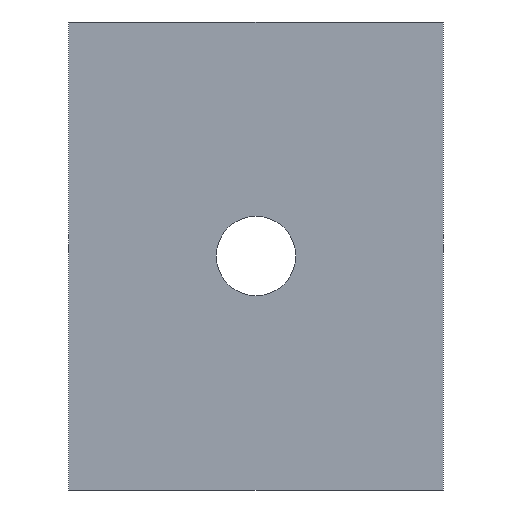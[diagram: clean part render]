
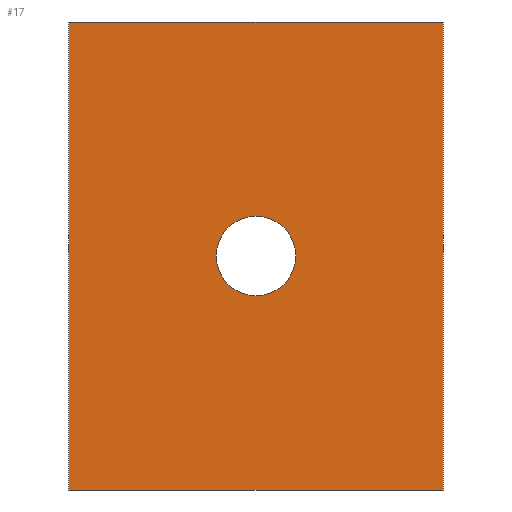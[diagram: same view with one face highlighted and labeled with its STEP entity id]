
A CAD part, left-side view. The second image highlights one B-rep face of the part: STEP entity #17.
In plain terms, the highlighted planar face has unit normal (-1, 0, 0).
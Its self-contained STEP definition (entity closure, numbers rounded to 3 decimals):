
#17 = ADVANCED_FACE('',(#18,#137),#32,.F.);
#18 = FACE_BOUND('',#19,.F.);
#19 = EDGE_LOOP('',(#20,#55,#83,#111));
#20 = ORIENTED_EDGE('',*,*,#21,.F.);
#21 = EDGE_CURVE('',#22,#24,#26,.T.);
#22 = VERTEX_POINT('',#23);
#23 = CARTESIAN_POINT('',(-85.,-8.,30.));
#24 = VERTEX_POINT('',#25);
#25 = CARTESIAN_POINT('',(-85.,-8.,50.));
#26 = SURFACE_CURVE('',#27,(#31,#43),.PCURVE_S1.);
#27 = LINE('',#28,#29);
#28 = CARTESIAN_POINT('',(-85.,-8.,30.));
#29 = VECTOR('',#30,1.);
#30 = DIRECTION('',(0.,0.,1.));
#31 = PCURVE('',#32,#37);
#32 = PLANE('',#33);
#33 = AXIS2_PLACEMENT_3D('',#34,#35,#36);
#34 = CARTESIAN_POINT('',(-85.,-8.,30.));
#35 = DIRECTION('',(1.,0.,0.));
#36 = DIRECTION('',(0.,0.,1.));
#37 = DEFINITIONAL_REPRESENTATION('',(#38),#42);
#38 = LINE('',#39,#40);
#39 = CARTESIAN_POINT('',(0.,0.));
#40 = VECTOR('',#41,1.);
#41 = DIRECTION('',(1.,0.));
#42 = ( GEOMETRIC_REPRESENTATION_CONTEXT(2) 
PARAMETRIC_REPRESENTATION_CONTEXT() REPRESENTATION_CONTEXT('2D SPACE',''
  ) );
#43 = PCURVE('',#44,#49);
#44 = PLANE('',#45);
#45 = AXIS2_PLACEMENT_3D('',#46,#47,#48);
#46 = CARTESIAN_POINT('',(-85.,-8.,30.));
#47 = DIRECTION('',(0.,1.,0.));
#48 = DIRECTION('',(0.,0.,1.));
#49 = DEFINITIONAL_REPRESENTATION('',(#50),#54);
#50 = LINE('',#51,#52);
#51 = CARTESIAN_POINT('',(0.,0.));
#52 = VECTOR('',#53,1.);
#53 = DIRECTION('',(1.,0.));
#54 = ( GEOMETRIC_REPRESENTATION_CONTEXT(2) 
PARAMETRIC_REPRESENTATION_CONTEXT() REPRESENTATION_CONTEXT('2D SPACE',''
  ) );
#55 = ORIENTED_EDGE('',*,*,#56,.T.);
#56 = EDGE_CURVE('',#22,#57,#59,.T.);
#57 = VERTEX_POINT('',#58);
#58 = CARTESIAN_POINT('',(-85.,8.,30.));
#59 = SURFACE_CURVE('',#60,(#64,#71),.PCURVE_S1.);
#60 = LINE('',#61,#62);
#61 = CARTESIAN_POINT('',(-85.,-8.,30.));
#62 = VECTOR('',#63,1.);
#63 = DIRECTION('',(0.,1.,0.));
#64 = PCURVE('',#32,#65);
#65 = DEFINITIONAL_REPRESENTATION('',(#66),#70);
#66 = LINE('',#67,#68);
#67 = CARTESIAN_POINT('',(0.,0.));
#68 = VECTOR('',#69,1.);
#69 = DIRECTION('',(0.,-1.));
#70 = ( GEOMETRIC_REPRESENTATION_CONTEXT(2) 
PARAMETRIC_REPRESENTATION_CONTEXT() REPRESENTATION_CONTEXT('2D SPACE',''
  ) );
#71 = PCURVE('',#72,#77);
#72 = PLANE('',#73);
#73 = AXIS2_PLACEMENT_3D('',#74,#75,#76);
#74 = CARTESIAN_POINT('',(-85.,-8.,30.));
#75 = DIRECTION('',(0.,0.,1.));
#76 = DIRECTION('',(1.,0.,0.));
#77 = DEFINITIONAL_REPRESENTATION('',(#78),#82);
#78 = LINE('',#79,#80);
#79 = CARTESIAN_POINT('',(0.,0.));
#80 = VECTOR('',#81,1.);
#81 = DIRECTION('',(0.,1.));
#82 = ( GEOMETRIC_REPRESENTATION_CONTEXT(2) 
PARAMETRIC_REPRESENTATION_CONTEXT() REPRESENTATION_CONTEXT('2D SPACE',''
  ) );
#83 = ORIENTED_EDGE('',*,*,#84,.T.);
#84 = EDGE_CURVE('',#57,#85,#87,.T.);
#85 = VERTEX_POINT('',#86);
#86 = CARTESIAN_POINT('',(-85.,8.,50.));
#87 = SURFACE_CURVE('',#88,(#92,#99),.PCURVE_S1.);
#88 = LINE('',#89,#90);
#89 = CARTESIAN_POINT('',(-85.,8.,30.));
#90 = VECTOR('',#91,1.);
#91 = DIRECTION('',(0.,0.,1.));
#92 = PCURVE('',#32,#93);
#93 = DEFINITIONAL_REPRESENTATION('',(#94),#98);
#94 = LINE('',#95,#96);
#95 = CARTESIAN_POINT('',(0.,-16.));
#96 = VECTOR('',#97,1.);
#97 = DIRECTION('',(1.,0.));
#98 = ( GEOMETRIC_REPRESENTATION_CONTEXT(2) 
PARAMETRIC_REPRESENTATION_CONTEXT() REPRESENTATION_CONTEXT('2D SPACE',''
  ) );
#99 = PCURVE('',#100,#105);
#100 = PLANE('',#101);
#101 = AXIS2_PLACEMENT_3D('',#102,#103,#104);
#102 = CARTESIAN_POINT('',(-85.,8.,30.));
#103 = DIRECTION('',(0.,1.,0.));
#104 = DIRECTION('',(0.,0.,1.));
#105 = DEFINITIONAL_REPRESENTATION('',(#106),#110);
#106 = LINE('',#107,#108);
#107 = CARTESIAN_POINT('',(0.,0.));
#108 = VECTOR('',#109,1.);
#109 = DIRECTION('',(1.,0.));
#110 = ( GEOMETRIC_REPRESENTATION_CONTEXT(2) 
PARAMETRIC_REPRESENTATION_CONTEXT() REPRESENTATION_CONTEXT('2D SPACE',''
  ) );
#111 = ORIENTED_EDGE('',*,*,#112,.F.);
#112 = EDGE_CURVE('',#24,#85,#113,.T.);
#113 = SURFACE_CURVE('',#114,(#118,#125),.PCURVE_S1.);
#114 = LINE('',#115,#116);
#115 = CARTESIAN_POINT('',(-85.,-8.,50.));
#116 = VECTOR('',#117,1.);
#117 = DIRECTION('',(0.,1.,0.));
#118 = PCURVE('',#32,#119);
#119 = DEFINITIONAL_REPRESENTATION('',(#120),#124);
#120 = LINE('',#121,#122);
#121 = CARTESIAN_POINT('',(20.,0.));
#122 = VECTOR('',#123,1.);
#123 = DIRECTION('',(0.,-1.));
#124 = ( GEOMETRIC_REPRESENTATION_CONTEXT(2) 
PARAMETRIC_REPRESENTATION_CONTEXT() REPRESENTATION_CONTEXT('2D SPACE',''
  ) );
#125 = PCURVE('',#126,#131);
#126 = PLANE('',#127);
#127 = AXIS2_PLACEMENT_3D('',#128,#129,#130);
#128 = CARTESIAN_POINT('',(-85.,-8.,50.));
#129 = DIRECTION('',(0.,0.,1.));
#130 = DIRECTION('',(1.,0.,0.));
#131 = DEFINITIONAL_REPRESENTATION('',(#132),#136);
#132 = LINE('',#133,#134);
#133 = CARTESIAN_POINT('',(0.,0.));
#134 = VECTOR('',#135,1.);
#135 = DIRECTION('',(0.,1.));
#136 = ( GEOMETRIC_REPRESENTATION_CONTEXT(2) 
PARAMETRIC_REPRESENTATION_CONTEXT() REPRESENTATION_CONTEXT('2D SPACE',''
  ) );
#137 = FACE_BOUND('',#138,.F.);
#138 = EDGE_LOOP('',(#139));
#139 = ORIENTED_EDGE('',*,*,#140,.F.);
#140 = EDGE_CURVE('',#141,#141,#143,.T.);
#141 = VERTEX_POINT('',#142);
#142 = CARTESIAN_POINT('',(-85.,0.,41.7));
#143 = SURFACE_CURVE('',#144,(#149,#156),.PCURVE_S1.);
#144 = CIRCLE('',#145,1.7);
#145 = AXIS2_PLACEMENT_3D('',#146,#147,#148);
#146 = CARTESIAN_POINT('',(-85.,0.,40.));
#147 = DIRECTION('',(1.,0.,0.));
#148 = DIRECTION('',(-0.,0.,1.));
#149 = PCURVE('',#32,#150);
#150 = DEFINITIONAL_REPRESENTATION('',(#151),#155);
#151 = CIRCLE('',#152,1.7);
#152 = AXIS2_PLACEMENT_2D('',#153,#154);
#153 = CARTESIAN_POINT('',(10.,-8.));
#154 = DIRECTION('',(1.,0.));
#155 = ( GEOMETRIC_REPRESENTATION_CONTEXT(2) 
PARAMETRIC_REPRESENTATION_CONTEXT() REPRESENTATION_CONTEXT('2D SPACE',''
  ) );
#156 = PCURVE('',#157,#162);
#157 = CYLINDRICAL_SURFACE('',#158,1.7);
#158 = AXIS2_PLACEMENT_3D('',#159,#160,#161);
#159 = CARTESIAN_POINT('',(-87.,0.,40.));
#160 = DIRECTION('',(1.,0.,0.));
#161 = DIRECTION('',(-0.,0.,1.));
#162 = DEFINITIONAL_REPRESENTATION('',(#163),#167);
#163 = LINE('',#164,#165);
#164 = CARTESIAN_POINT('',(0.,2.));
#165 = VECTOR('',#166,1.);
#166 = DIRECTION('',(1.,0.));
#167 = ( GEOMETRIC_REPRESENTATION_CONTEXT(2) 
PARAMETRIC_REPRESENTATION_CONTEXT() REPRESENTATION_CONTEXT('2D SPACE',''
  ) );
